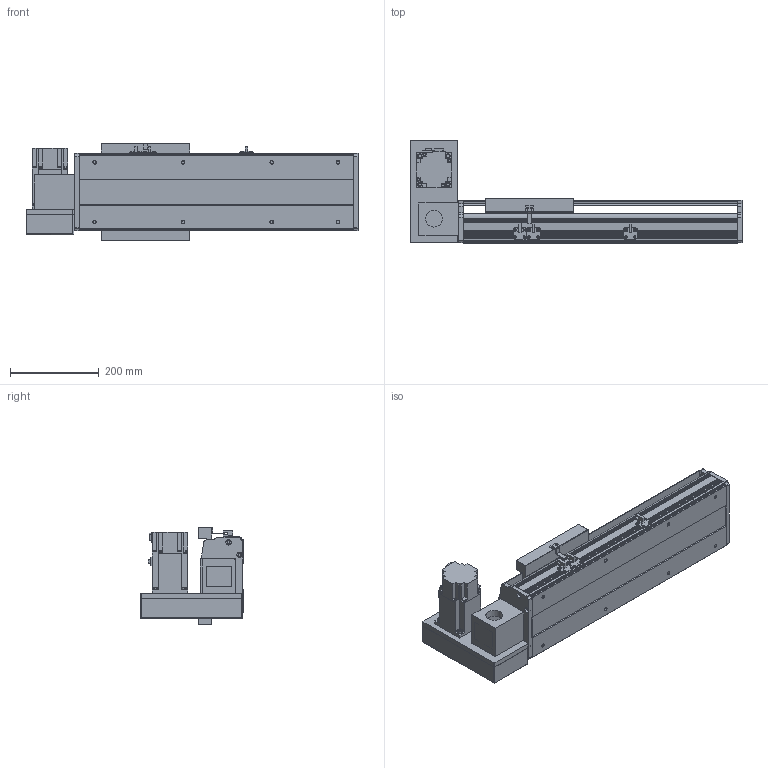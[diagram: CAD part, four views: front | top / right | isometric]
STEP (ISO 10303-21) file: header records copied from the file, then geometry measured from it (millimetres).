
FILE_DESCRIPTION(/* description */ ('STEP AP214'),/* implementation_level */ '2;1');
FILE_NAME(/* name */ 'PBS200-P40-S250-LU-T75-C1-N(0)',/* time_stamp */ '2022-06-11T08:58:41+02:00',/* author */ ('License CC BY-ND 4.0'),/* organization */ ('CADENAS'),/* preprocessor_version */ 'ST-DEVELOPER v18.102',/* originating_system */ 'PARTsolutions',/* authorisation */ ' ');
FILE_SCHEMA (('AUTOMOTIVE_DESIGN {1 0 10303 214 3 1 1}'));
Length unit declared in the file: millimetre
Products named in the file (7): PBS200-P40-S250-LU-T75-C1-N(0); PBS200_sensor; PBS200_plant; PBS200_sliser; T75-p1; PBS200T-LU_motors; PBS200-S250()_body
Assembly tree (8 placements, depth 2):
  PBS200-P40-S250-LU-T75-C1-N(0)
    PBS200_sensor  x3
    PBS200_plant
    PBS200_sliser
    T75-p1
    PBS200T-LU_motors
    PBS200-S250()_body
Bounding box: 750 x 231 x 221 mm (x, y, z)
Volume: 6554079.8 mm3; surface area: 1081083 mm2
Topology: 8 solids, 8 shells, 896 faces, 2334 edges, 1524 vertices
Faces by surface type: plane 566, cylinder 290, cone 40
Full cylindrical faces by diameter (mm): 2.459 x6, 3.242 x4, 4.5 x6, 4.917 x4, 5 x6, 6 x7, 6.6 x8, 6.647 x12, 8 x6, 10 x4, 12 x8, 38 x2, 40 x1, 70 x1
Entity records: 24101 total; most frequent: DIRECTION 4231, CARTESIAN_POINT 4120, ORIENTED_EDGE 3934, EDGE_CURVE 1967, AXIS2_PLACEMENT_3D 1459, VERTEX_POINT 1348, LINE 1313, VECTOR 1313
